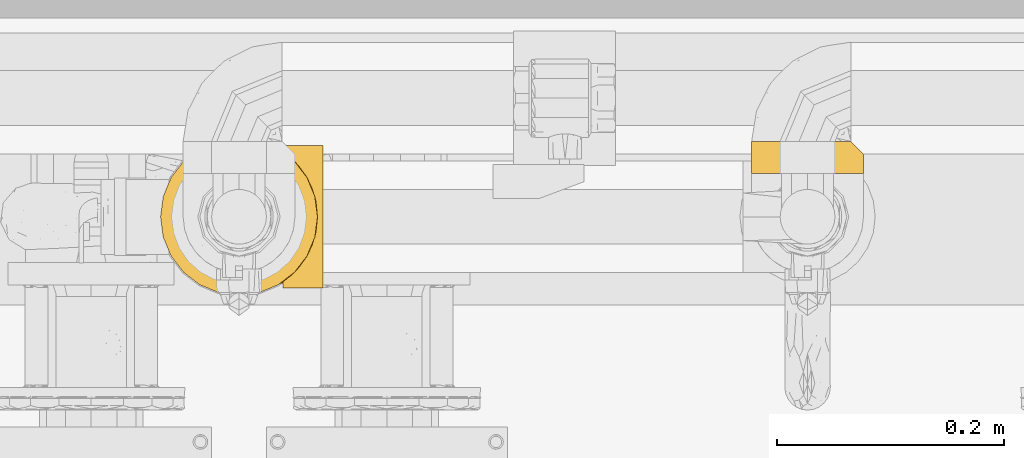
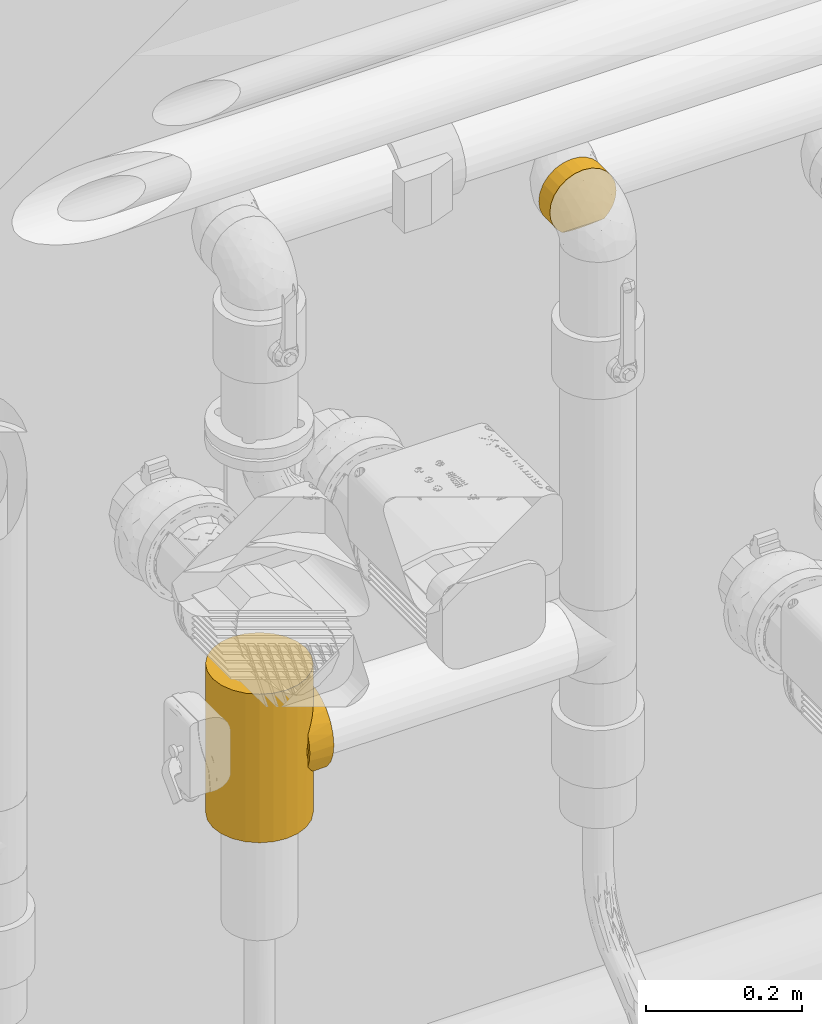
# One storey, part 16 of 94: 2 coverings.
"""IFC2X3 building model written with IfcOpenShell, lengths in millimetres."""

from ifc_helpers import new_model, entity, si_unit, converted_unit, derived_unit, direction, frame, origin, place, context, subcontext, project, spatial, faceted_brep, material, element, save


model = new_model("IFC2X3")

# Units and contexts
model_context = context("Model", 3, precision=0.01, world=origin(), true_north=direction((6.123031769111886e-17, 1.0)))
body_context = subcontext(model_context, "Body", "Model", "MODEL_VIEW")
ifc_project = project(units=[si_unit("LENGTHUNIT", "METRE", prefix="MILLI"), si_unit("AREAUNIT", "SQUARE_METRE"), si_unit("VOLUMEUNIT", "CUBIC_METRE"), converted_unit("PLANEANGLEUNIT", "DEGREE", entity("IfcRatioMeasure", 0.017453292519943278), si_unit("PLANEANGLEUNIT", "RADIAN"), dimensions=[0, 0, 0, 0, 0, 0, 0]), si_unit("MASSUNIT", "GRAM", prefix="KILO"), derived_unit("MASSDENSITYUNIT", [(si_unit("MASSUNIT", "GRAM", prefix="KILO"), 1), (si_unit("LENGTHUNIT", "METRE"), -3)]), derived_unit("IONCONCENTRATIONUNIT", [(si_unit("MASSUNIT", "GRAM", prefix="KILO"), 1), (si_unit("LENGTHUNIT", "METRE"), -3)]), derived_unit("MOMENTOFINERTIAUNIT", [(si_unit("LENGTHUNIT", "METRE"), 4)]), si_unit("TIMEUNIT", "SECOND"), si_unit("FREQUENCYUNIT", "HERTZ"), si_unit("THERMODYNAMICTEMPERATUREUNIT", "DEGREE_CELSIUS"), derived_unit("THERMALTRANSMITTANCEUNIT", [(si_unit("MASSUNIT", "GRAM", prefix="KILO"), 1), (si_unit("THERMODYNAMICTEMPERATUREUNIT", "KELVIN"), -1), (si_unit("TIMEUNIT", "SECOND"), -3)]), derived_unit("THERMALCONDUCTANCEUNIT", [(si_unit("MASSUNIT", "GRAM", prefix="KILO"), 1), (si_unit("THERMODYNAMICTEMPERATUREUNIT", "KELVIN"), -1), (si_unit("TIMEUNIT", "SECOND"), -3), (si_unit("LENGTHUNIT", "METRE"), 1)]), derived_unit("VOLUMETRICFLOWRATEUNIT", [(si_unit("LENGTHUNIT", "METRE"), 3), (si_unit("TIMEUNIT", "SECOND"), -1)]), derived_unit("MASSFLOWRATEUNIT", [(si_unit("MASSUNIT", "GRAM", prefix="KILO"), 1), (si_unit("TIMEUNIT", "SECOND"), -1)]), derived_unit("ROTATIONALFREQUENCYUNIT", [(si_unit("TIMEUNIT", "SECOND"), -1)]), si_unit("ELECTRICCURRENTUNIT", "AMPERE"), si_unit("ELECTRICVOLTAGEUNIT", "VOLT"), si_unit("POWERUNIT", "WATT"), si_unit("FORCEUNIT", "NEWTON", prefix="KILO"), si_unit("ILLUMINANCEUNIT", "LUX"), si_unit("LUMINOUSFLUXUNIT", "LUMEN"), si_unit("LUMINOUSINTENSITYUNIT", "CANDELA"), derived_unit("USERDEFINED", [(si_unit("MASSUNIT", "GRAM", prefix="KILO"), -1), (si_unit("LENGTHUNIT", "METRE"), -2), (si_unit("TIMEUNIT", "SECOND"), 3), (si_unit("LUMINOUSFLUXUNIT", "LUMEN"), 1)]), derived_unit("USERDEFINED", [(si_unit("MASSUNIT", "GRAM", prefix="KILO"), 1), (si_unit("TIMEUNIT", "SECOND"), -3), (si_unit("LENGTHUNIT", "METRE"), 3), (si_unit("ELECTRICCURRENTUNIT", "AMPERE"), -2)]), derived_unit("SOUNDPOWERUNIT", [(si_unit("MASSUNIT", "GRAM", prefix="KILO"), 1), (si_unit("TIMEUNIT", "SECOND"), -3), (si_unit("LENGTHUNIT", "METRE"), 2)]), derived_unit("SOUNDPRESSUREUNIT", [(si_unit("MASSUNIT", "GRAM", prefix="KILO"), 1), (si_unit("LENGTHUNIT", "METRE"), -1), (si_unit("TIMEUNIT", "SECOND"), -2)]), derived_unit("LINEARVELOCITYUNIT", [(si_unit("LENGTHUNIT", "METRE"), 1), (si_unit("TIMEUNIT", "SECOND"), -1)]), si_unit("PRESSUREUNIT", "PASCAL"), derived_unit("USERDEFINED", [(si_unit("MASSUNIT", "GRAM", prefix="KILO"), 1), (si_unit("LENGTHUNIT", "METRE"), -2), (si_unit("TIMEUNIT", "SECOND"), -2)]), derived_unit("LINEARFORCEUNIT", [(si_unit("MASSUNIT", "GRAM", prefix="KILO"), 1), (si_unit("TIMEUNIT", "SECOND"), -2)]), derived_unit("PLANARFORCEUNIT", [(si_unit("MASSUNIT", "GRAM", prefix="KILO"), 1), (si_unit("LENGTHUNIT", "METRE"), -1), (si_unit("TIMEUNIT", "SECOND"), -2)]), derived_unit("SPECIFICHEATCAPACITYUNIT", [(si_unit("THERMODYNAMICTEMPERATUREUNIT", "KELVIN"), -1), (si_unit("LENGTHUNIT", "METRE"), 2), (si_unit("TIMEUNIT", "SECOND"), -2)]), derived_unit("HEATINGVALUEUNIT", [(si_unit("LENGTHUNIT", "METRE"), 2), (si_unit("TIMEUNIT", "SECOND"), -2)]), derived_unit("VAPORPERMEABILITYUNIT", [(si_unit("LENGTHUNIT", "METRE"), -1), (si_unit("TIMEUNIT", "SECOND"), 1)]), derived_unit("DYNAMICVISCOSITYUNIT", [(si_unit("MASSUNIT", "GRAM", prefix="KILO"), 1), (si_unit("TIMEUNIT", "SECOND"), -1), (si_unit("LENGTHUNIT", "METRE"), -1)]), derived_unit("THERMALEXPANSIONCOEFFICIENTUNIT", [(si_unit("THERMODYNAMICTEMPERATUREUNIT", "KELVIN"), -1)]), derived_unit("MODULUSOFELASTICITYUNIT", [(si_unit("MASSUNIT", "GRAM", prefix="KILO"), 1), (si_unit("LENGTHUNIT", "METRE"), -1), (si_unit("TIMEUNIT", "SECOND"), -2)]), derived_unit("ISOTHERMALMOISTURECAPACITYUNIT", [(si_unit("LENGTHUNIT", "METRE"), 3), (si_unit("MASSUNIT", "GRAM", prefix="KILO"), -1)]), derived_unit("MOISTUREDIFFUSIVITYUNIT", [(si_unit("TIMEUNIT", "SECOND"), -1), (si_unit("LENGTHUNIT", "METRE"), 2)])], contexts=[model_context])

# Site, building, storey
site_placement = place(None, origin())
site = spatial("IfcSite", under=ifc_project, at=site_placement, Name="Default", CompositionType="ELEMENT")
building_placement = place(site_placement, origin())
building = spatial("IfcBuilding", under=site, at=building_placement, CompositionType="ELEMENT")
storey_placement = place(building_placement, origin())
storey = spatial("IfcBuildingStorey", under=building, at=storey_placement, Name="Niveau 0", CompositionType="ELEMENT", Elevation=0.0)

# Coverings
ifc_material = material(Name="Isolation - Laine minérale")
covering_1_placement = place(storey_placement, frame((-9022.871137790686, 9958.875273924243, 2599.2747277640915)))
element("IfcCovering", 1, at=covering_1_placement, inside=storey, material=ifc_material, Name="Isolation des canalisations:Laine minérale", ObjectType="Isolation des canalisations:Laine minérale", PredefinedType="INSULATION", context=body_context, shape_type="Brep", body=[
    faceted_brep([(2.793596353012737, 1.5952722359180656, 39.94049838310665), (6.323164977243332, 1.5952722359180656, 29.69648789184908), (12.012544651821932, 1.5952722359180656, 20.474956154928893), (19.584352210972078, 1.5952722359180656, 12.725272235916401), (81.86619226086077, 1.5952722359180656, 12.725272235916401), (89.43799982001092, 1.5952722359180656, 20.47495615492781), (95.12737949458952, 1.5952722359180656, 29.69648789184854), (98.65694811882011, 1.5952722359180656, 39.94049838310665), (99.85527223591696, 1.5952722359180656, 50.72527223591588), (98.18120808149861, 1.5952722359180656, 63.44105192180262), (93.2731003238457, 1.5952722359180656, 75.29027223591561), (85.46542839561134, 1.5952722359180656, 85.4654283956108), (75.29027223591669, 1.5952722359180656, 93.27310032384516), (63.4410519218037, 1.5952722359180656, 98.18120808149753), (50.72527223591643, 1.5952722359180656, 99.85527223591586), (38.00949255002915, 1.5952722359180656, 98.18120808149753), (26.160272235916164, 1.5952722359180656, 93.27310032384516), (15.985116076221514, 1.5952722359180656, 85.4654283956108), (8.17744414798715, 1.5952722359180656, 75.29027223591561), (3.26933639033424, 1.5952722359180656, 63.44105192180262), (1.5952722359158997, 1.5952722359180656, 50.72527223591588), (50.72527223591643, 29.97035065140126, 1.5952722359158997), (38.00949255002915, 29.97035065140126, 3.2693363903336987), (26.160272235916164, 29.97035065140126, 8.177444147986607), (15.985116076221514, 29.97035065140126, 15.985116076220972), (8.17744414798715, 29.97035065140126, 26.160272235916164), (3.26933639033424, 29.97035065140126, 38.00949255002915), (1.5952722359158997, 29.97035065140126, 50.72527223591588), (3.26933639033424, 29.97035065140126, 63.44105192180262), (8.17744414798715, 29.97035065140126, 75.29027223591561), (15.985116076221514, 29.97035065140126, 85.4654283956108), (26.160272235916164, 29.97035065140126, 93.27310032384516), (38.00949255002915, 29.97035065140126, 98.18120808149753), (50.72527223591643, 29.97035065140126, 99.85527223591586), (61.51004608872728, 29.97035065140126, 98.65694811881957), (71.75405657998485, 29.97035065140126, 95.12737949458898), (80.9755883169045, 29.97035065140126, 89.43799982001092), (88.72527223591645, 29.97035065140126, 81.86619226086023), (88.72527223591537, 29.97035065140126, 19.58435221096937), (80.97558831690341, 29.97035065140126, 12.01254465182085), (71.75405657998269, 29.97035065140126, 6.32316497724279), (61.51004608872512, 29.97035065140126, 2.793596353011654), (34.19020495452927, 9.859172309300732, 4.461372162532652), (42.33445912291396, 12.003444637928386, 2.317099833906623), (50.72527223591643, 12.725272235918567, 1.5952722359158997), (26.531823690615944, 6.3554633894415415, 7.965081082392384), (59.116085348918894, 12.003444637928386, 2.317099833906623), (67.26033951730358, 9.859172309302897, 4.461372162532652), (74.9187207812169, 6.3554633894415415, 7.965081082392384), (93.48546338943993, 25.21015949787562, 26.53182369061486), (96.98917230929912, 21.706450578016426, 34.19020495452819), (99.13344463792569, 19.56217824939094, 42.334459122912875), (99.85527223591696, 18.84035065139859, 50.72527223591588), (99.13344463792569, 19.56217824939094, 59.116085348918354), (96.9891723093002, 21.706450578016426, 67.26033951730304), (93.48546338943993, 25.210159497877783, 74.91872078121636)], [[[0, 1, 2, 3, 4, 5, 6, 7, 8, 9, 10, 11, 12, 13, 14, 15, 16, 17, 18, 19, 20]], [[21, 22, 23, 24, 25, 26, 27, 28, 29, 30, 31, 32, 33, 34, 35, 36, 37, 38, 39, 40, 41]], [[0, 27, 26]], [[26, 25, 1]], [[24, 2, 25]], [[20, 27, 0]], [[1, 0, 26]], [[2, 1, 25]], [[24, 3, 2]], [[42, 23, 22]], [[22, 21, 43]], [[44, 43, 21]], [[3, 24, 45]], [[43, 42, 22]], [[45, 23, 42]], [[45, 24, 23]], [[46, 21, 41]], [[41, 40, 47]], [[39, 48, 40]], [[46, 44, 21]], [[48, 47, 40]], [[4, 48, 39]], [[46, 41, 47]], [[39, 38, 4]], [[38, 49, 5]], [[50, 51, 7]], [[49, 50, 6]], [[5, 49, 6]], [[51, 8, 7]], [[7, 6, 50]], [[8, 51, 52]], [[38, 5, 4]], [[53, 54, 9]], [[10, 55, 11]], [[54, 55, 10]], [[52, 53, 8]], [[8, 53, 9]], [[54, 10, 9]], [[55, 37, 11]], [[12, 36, 35]], [[35, 34, 13]], [[33, 14, 34]], [[11, 36, 12]], [[13, 12, 35]], [[14, 13, 34]], [[36, 11, 37]], [[14, 33, 32, 15]], [[15, 32, 31, 16]], [[16, 31, 30, 17]], [[18, 29, 28, 19]], [[19, 28, 27, 20]], [[17, 30, 29, 18]], [[45, 42, 43, 44, 46, 47, 48, 4, 3]], [[37, 55, 54, 53, 52, 51, 50, 49, 38]]]),
])
covering_2_placement = place(storey_placement, frame((-9542.741137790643, 9851.875273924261, 2126.589965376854)))
element("IfcCovering", 2, at=covering_2_placement, inside=storey, material=ifc_material, Name="Isolation des canalisations:Laine minérale", ObjectType="Isolation des canalisations:Laine minérale", PredefinedType="INSULATION", context=body_context, shape_type="Brep", body=[
    faceted_brep([(109.0952722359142, 127.85564247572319, -141.0499500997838), (109.0952722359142, 127.85564247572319, -127.97914855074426), (109.0952722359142, 128.78453954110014, -122.02155880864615), (109.0952722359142, 129.09527223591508, -116.0), (109.0952722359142, 128.78453954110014, -109.97844119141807), (109.0952722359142, 127.85564247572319, -104.02085144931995), (109.0952722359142, 127.85564247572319, -90.95004990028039), (109.0952722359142, 131.7674760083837, -103.18549705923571), (109.0952722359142, 133.09527223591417, -116.0), (109.0952722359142, 131.7674760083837, -128.81450294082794), (109.0952722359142, 12.406004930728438, -122.02155880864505), (109.0952722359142, 13.334901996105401, -127.9791485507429), (109.0952722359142, 13.334901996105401, -141.04995009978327), (109.0952722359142, 9.42306846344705, -128.81450294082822), (109.0952722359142, 8.095272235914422, -116.0), (109.0952722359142, 9.42306846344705, -103.18549705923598), (109.0952722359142, 13.334901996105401, -90.95004990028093), (109.0952722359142, 13.334901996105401, -104.02085144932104), (109.0952722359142, 12.406004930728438, -109.97844119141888), (109.0952722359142, 12.095272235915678, -116.0), (144.5952722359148, 39.34527223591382, -61.873412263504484), (144.5952722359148, 26.40109841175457, -71.80582617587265), (144.5952722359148, 16.468684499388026, -84.7500000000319), (144.5952722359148, 10.224908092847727, -99.82380968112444), (144.5952722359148, 8.095272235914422, -116.0), (144.5952722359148, 10.224908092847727, -132.17619031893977), (144.5952722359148, 16.468684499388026, -147.25000000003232), (144.5952722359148, 26.40109841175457, -160.19417382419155), (144.5952722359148, 39.34527223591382, -170.1265877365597), (144.5952722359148, 46.88217707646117, -173.2484759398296), (144.5952722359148, 54.41908191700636, -176.37036414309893), (144.5952722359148, 58.46312949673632, -176.90277310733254), (144.5952722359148, 62.50717707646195, -177.43518207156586), (144.5952722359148, 70.59527223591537, -178.50000000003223), (144.5952722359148, 78.68336739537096, -177.43518207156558), (144.59527223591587, 82.7274149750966, -176.90277310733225), (144.5952722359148, 86.77146255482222, -176.37036414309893), (144.59527223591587, 94.30836739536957, -173.24847593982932), (144.5952722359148, 101.84527223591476, -170.12658773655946), (144.5952722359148, 114.78944606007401, -160.19417382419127), (144.5952722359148, 124.72185997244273, -147.25000000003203), (144.5952722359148, 130.96563637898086, -132.1761903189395), (144.5952722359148, 133.09527223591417, -116.0), (144.5952722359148, 130.96563637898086, -99.82380968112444), (144.5952722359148, 124.72185997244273, -84.7500000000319), (144.5952722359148, 114.78944606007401, -71.80582617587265), (144.5952722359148, 101.84527223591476, -61.873412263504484), (144.5952722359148, 94.30836739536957, -58.75152406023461), (144.5952722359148, 86.77146255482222, -55.629635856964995), (144.5952722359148, 82.72741497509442, -55.09722689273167), (144.5952722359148, 78.68336739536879, -54.56481792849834), (144.5952722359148, 70.59527223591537, -53.50000000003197), (144.59527223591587, 62.50717707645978, -54.56481792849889), (144.59527223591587, 58.463129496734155, -55.097226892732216), (144.5952722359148, 54.41908191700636, -55.62963585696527), (144.5952722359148, 46.88217707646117, -58.75152406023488), (123.13073411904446, 25.8624515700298, -72.35111965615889), (116.12735959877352, 18.75099559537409, -81.09411253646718), (129.53562328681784, 34.72000195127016, -64.82173330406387), (138.33883957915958, 57.48767582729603, -54.889927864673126), (136.5705399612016, 51.407539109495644, -56.86269340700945), (139.59527223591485, 70.59527223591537, -53.50000000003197), (138.9670559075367, 64.04147403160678, -54.19496393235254), (134.80224034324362, 45.327402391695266, -58.835458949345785), (138.33883957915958, 83.70286864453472, -54.889927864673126), (134.80224034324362, 95.86314208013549, -58.835458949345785), (129.53562328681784, 106.47054252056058, -64.8217333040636), (138.96705590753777, 77.14907044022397, -54.19496393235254), (136.5705399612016, 89.78300536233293, -56.86269340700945), (123.13073411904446, 115.32809290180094, -72.35111965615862), (116.12735959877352, 122.43954887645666, -81.09411253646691), (123.13073411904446, 115.32809290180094, -159.64888034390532), (116.12735959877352, 122.43954887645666, -150.90588746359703), (138.9670559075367, 77.14907044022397, -177.80503606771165), (138.33883957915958, 83.70286864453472, -177.11007213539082), (129.53562328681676, 106.47054252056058, -167.17826669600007), (136.5705399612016, 89.7830053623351, -175.1373065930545), (139.59527223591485, 70.59527223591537, -178.50000000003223), (134.80224034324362, 95.86314208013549, -173.16454105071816), (138.33883957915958, 57.48767582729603, -177.11007213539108), (134.80224034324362, 45.327402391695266, -173.1645410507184), (129.53562328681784, 34.72000195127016, -167.17826669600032), (138.9670559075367, 64.04147403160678, -177.80503606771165), (136.5705399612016, 51.407539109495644, -175.13730659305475), (123.13073411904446, 25.8624515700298, -159.64888034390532), (116.1273595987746, 18.75099559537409, -150.9058874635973), (105.0952722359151, 130.35102509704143, 0.0), (88.45378634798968, 137.2441542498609, 0.0), (70.59527223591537, 139.59527223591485, 0.0), (52.736758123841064, 137.2441542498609, 0.0), (36.09527223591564, 130.35102509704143, 0.0), (21.804904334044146, 119.38564013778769, 0.0), (10.839519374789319, 105.0952722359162, 0.0), (3.9463902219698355, 88.4537863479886, 0.0), (1.5952722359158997, 70.59527223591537, 0.0), (3.9463902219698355, 52.736758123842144, 0.0), (10.839519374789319, 36.09527223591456, 0.0), (21.804904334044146, 21.804904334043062, 0.0), (36.09527223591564, 10.839519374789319, 0.0), (52.736758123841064, 3.9463902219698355, 0.0), (70.59527223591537, 1.5952722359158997, 0.0), (88.4537863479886, 3.9463902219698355, 0.0), (105.0952722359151, 10.839519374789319, 0.0), (119.38564013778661, 21.804904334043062, 0.0), (124.86833261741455, 28.950088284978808, 0.0), (130.35102509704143, 36.09527223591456, 0.0), (133.79758967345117, 44.41601517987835, 0.0), (137.2441542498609, 52.736758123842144, 0.0), (138.41971324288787, 61.66601517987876, 0.0), (139.59527223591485, 70.59527223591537, 0.0), (138.41971324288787, 79.52452929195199, 0.0), (137.2441542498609, 88.4537863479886, 0.0), (133.79758967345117, 96.77452929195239, 0.0), (130.35102509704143, 105.0952722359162, 0.0), (124.86833261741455, 112.24045618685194, 0.0), (119.38564013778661, 119.38564013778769, 0.0), (3.9463902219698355, 52.736758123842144, -232.0), (1.5952722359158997, 70.59527223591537, -232.0), (3.9463902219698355, 88.4537863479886, -232.0), (10.839519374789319, 105.0952722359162, -232.0), (21.804904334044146, 119.38564013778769, -232.0), (36.09527223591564, 130.35102509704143, -232.0), (52.736758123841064, 137.2441542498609, -232.0), (70.59527223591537, 139.59527223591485, -232.0), (88.45378634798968, 137.2441542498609, -232.0), (105.0952722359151, 130.35102509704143, -232.0), (119.38564013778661, 119.38564013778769, -232.0), (124.86833261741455, 112.24045618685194, -232.0), (130.35102509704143, 105.0952722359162, -232.0), (133.79758967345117, 96.77452929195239, -232.0), (137.2441542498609, 88.4537863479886, -232.0), (138.41971324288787, 79.52452929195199, -232.0), (139.59527223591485, 70.59527223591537, -232.0), (138.41971324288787, 61.66601517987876, -232.0), (137.2441542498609, 52.736758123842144, -232.0), (133.79758967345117, 44.41601517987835, -232.0), (130.35102509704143, 36.09527223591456, -232.0), (124.86833261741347, 28.950088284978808, -232.0), (119.38564013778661, 21.804904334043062, -232.0), (105.0952722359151, 10.839519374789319, -232.0), (88.4537863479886, 3.9463902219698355, -232.0), (70.59527223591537, 1.5952722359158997, -232.0), (52.736758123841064, 3.9463902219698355, -232.0), (36.09527223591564, 10.839519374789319, -232.0), (21.804904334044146, 21.804904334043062, -232.0), (10.839519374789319, 36.09527223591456, -232.0), (107.18420498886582, 12.095272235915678, -116.0), (107.69592372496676, 12.418458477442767, -122.14071175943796), (107.69592372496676, 12.418458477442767, -109.85928824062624), (107.69592372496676, 128.772085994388, -122.1407117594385), (107.69592372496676, 128.772085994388, -109.85928824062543), (107.18420498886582, 129.09527223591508, -116.0)], [[[0, 1, 2, 3, 4, 5, 6, 7, 8, 9]], [[10, 11, 12, 13, 14, 15, 16, 17, 18, 19]], [[20, 21, 22, 23, 24, 25, 26, 27, 28, 29, 30, 31, 32, 33, 34, 35, 36, 37, 38, 39, 40, 41, 42, 43, 44, 45, 46, 47, 48, 49, 50, 51, 52, 53, 54, 55]], [[15, 24, 23]], [[23, 22, 16]], [[56, 22, 21]], [[56, 57, 22]], [[14, 24, 15]], [[16, 15, 23]], [[57, 16, 22]], [[21, 20, 58]], [[59, 54, 53, 52]], [[54, 60, 55]], [[51, 61, 62]], [[54, 59, 60]], [[63, 58, 20]], [[63, 20, 55]], [[59, 52, 62]], [[55, 60, 63]], [[51, 62, 52]], [[21, 58, 56]], [[64, 50, 49, 48]], [[47, 46, 65]], [[45, 66, 46]], [[51, 67, 61]], [[51, 50, 67]], [[68, 47, 65]], [[66, 65, 46]], [[64, 48, 68]], [[47, 68, 48]], [[45, 69, 66]], [[70, 69, 44]], [[44, 69, 45]], [[6, 44, 43]], [[7, 43, 42]], [[50, 64, 67]], [[70, 44, 6]], [[6, 43, 7]], [[42, 8, 7]], [[9, 42, 41]], [[41, 40, 0]], [[71, 40, 39]], [[71, 72, 40]], [[8, 42, 9]], [[33, 73, 34]], [[0, 9, 41]], [[72, 0, 40]], [[74, 36, 35, 34]], [[75, 39, 38]], [[36, 76, 37]], [[73, 33, 77]], [[78, 75, 38]], [[78, 38, 37]], [[74, 34, 73]], [[37, 76, 78]], [[36, 74, 76]], [[39, 75, 71]], [[79, 32, 31, 30]], [[29, 28, 80]], [[27, 81, 28]], [[33, 82, 77]], [[33, 32, 82]], [[83, 29, 80]], [[81, 80, 28]], [[79, 30, 83]], [[29, 83, 30]], [[27, 84, 81]], [[85, 84, 26]], [[26, 84, 27]], [[12, 26, 25]], [[13, 25, 24]], [[32, 79, 82]], [[85, 26, 12]], [[12, 25, 13]], [[24, 14, 13]], [[86, 87, 88, 89, 90, 91, 92, 93, 94, 95, 96, 97, 98, 99, 100, 101, 102, 103, 104, 105, 106, 107, 108, 109, 110, 111, 112, 113, 114, 115]], [[116, 117, 118, 119, 120, 121, 122, 123, 124, 125, 126, 127, 128, 129, 130, 131, 132, 133, 134, 135, 136, 137, 138, 139, 140, 141, 142, 143, 144, 145]], [[89, 122, 121, 90]], [[90, 121, 120, 91]], [[123, 122, 89, 88]], [[92, 119, 118, 93]], [[93, 118, 117, 94]], [[91, 120, 119, 92]], [[95, 116, 145, 96]], [[96, 145, 144, 97]], [[117, 116, 95, 94]], [[98, 143, 142, 99]], [[99, 142, 141, 100]], [[97, 144, 143, 98]], [[146, 140, 139]], [[147, 146, 139]], [[140, 101, 100, 141]], [[139, 12, 147]], [[106, 60, 107]], [[85, 12, 139]], [[12, 11, 147]], [[148, 17, 16]], [[58, 104, 56]], [[60, 106, 63]], [[85, 139, 138]], [[80, 136, 135]], [[101, 140, 146]], [[102, 101, 146]], [[146, 148, 102]], [[109, 62, 61]], [[77, 82, 132]], [[16, 57, 102]], [[79, 134, 133]], [[84, 138, 137]], [[148, 16, 102]], [[134, 79, 83]], [[102, 57, 103]], [[85, 138, 84]], [[136, 80, 81]], [[135, 134, 83]], [[132, 82, 133]], [[84, 137, 81]], [[81, 137, 136]], [[79, 133, 82]], [[83, 80, 135]], [[58, 105, 104]], [[104, 103, 56]], [[58, 63, 105]], [[103, 57, 56]], [[60, 59, 107]], [[59, 108, 107]], [[62, 109, 108]], [[63, 106, 105]], [[108, 59, 62]], [[131, 130, 74]], [[132, 131, 73]], [[130, 76, 74]], [[78, 128, 75]], [[128, 78, 129]], [[75, 128, 127]], [[127, 126, 71]], [[64, 110, 67]], [[61, 67, 109]], [[132, 73, 77]], [[65, 112, 68]], [[69, 114, 66]], [[112, 111, 68]], [[113, 65, 66]], [[114, 113, 66]], [[109, 67, 110]], [[131, 74, 73]], [[75, 127, 71]], [[0, 72, 125]], [[1, 0, 149]], [[6, 5, 150]], [[72, 126, 125]], [[76, 129, 78]], [[151, 125, 124]], [[151, 149, 125]], [[125, 149, 0]], [[124, 123, 88, 87]], [[111, 64, 68]], [[64, 111, 110]], [[86, 115, 70]], [[115, 69, 70]], [[70, 6, 86]], [[129, 76, 130]], [[150, 151, 86]], [[65, 113, 112]], [[151, 87, 86]], [[151, 124, 87]], [[150, 86, 6]], [[69, 115, 114]], [[72, 71, 126]], [[146, 19, 148]], [[18, 17, 148]], [[18, 148, 19]], [[150, 5, 4]], [[3, 151, 150]], [[3, 150, 4]], [[151, 3, 149]], [[2, 1, 149]], [[2, 149, 3]], [[147, 11, 10]], [[19, 146, 147]], [[19, 147, 10]]]),
])

save(model, "model.ifc")
